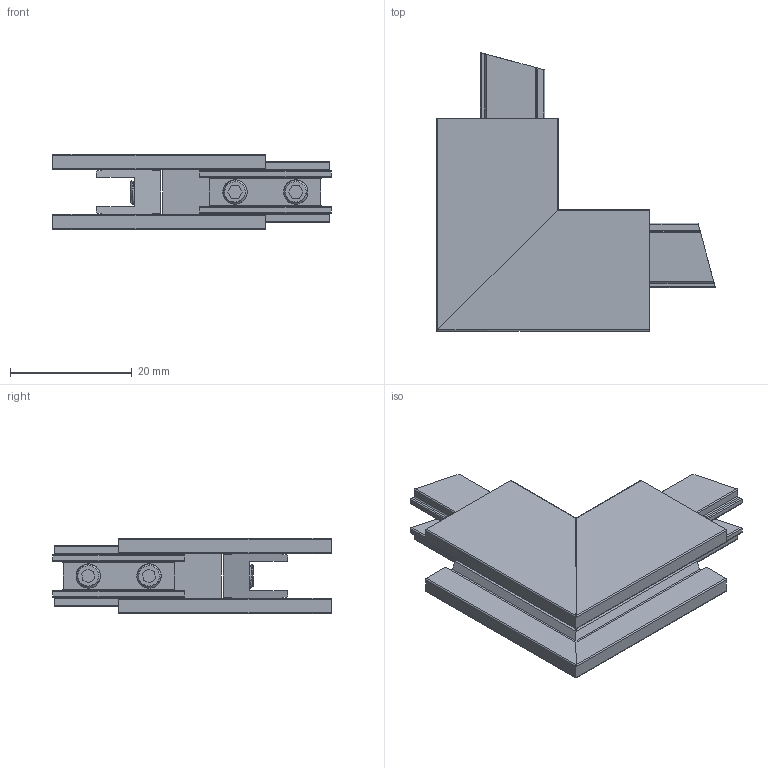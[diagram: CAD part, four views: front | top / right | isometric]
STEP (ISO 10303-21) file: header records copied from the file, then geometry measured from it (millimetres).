
FILE_DESCRIPTION((''),'2;1');
FILE_NAME('KC-0006-89_ASM','2025-08-01T15:24:00',('YF-06'),(''),'CREO PARAMETRIC BY PTC INC, 2022073','CREO PARAMETRIC BY PTC INC, 2022073','');
FILE_SCHEMA(('CONFIG_CONTROL_DESIGN','SHAPE_APPEARANCE_LAYERS_GROUPS'));
Length unit declared in the file: millimetre
Products named in the file (4): KC-0006-0079; KC-0006-0014; M4_5; KC-0006-89_ASM
Assembly tree (8 placements, depth 2):
  KC-0006-89_ASM
    KC-0006-0079  x2
    KC-0006-0014  x2
    M4_5  x4
Bounding box: 45.84 x 45.84 x 12.5 mm (x, y, z)
Volume: 6626.5 mm3; surface area: 8872.5 mm2
Topology: 8 solids, 12 shells, 308 faces, 836 edges, 548 vertices
Faces by surface type: plane 132, cylinder 124, cone 28, bspline 24
Entity records: 5272 total; most frequent: CARTESIAN_POINT 1813, ORIENTED_EDGE 672, DIRECTION 563, EDGE_CURVE 340, VERTEX_POINT 223, VECTOR 213, LINE 213, AXIS2_PLACEMENT_3D 175
